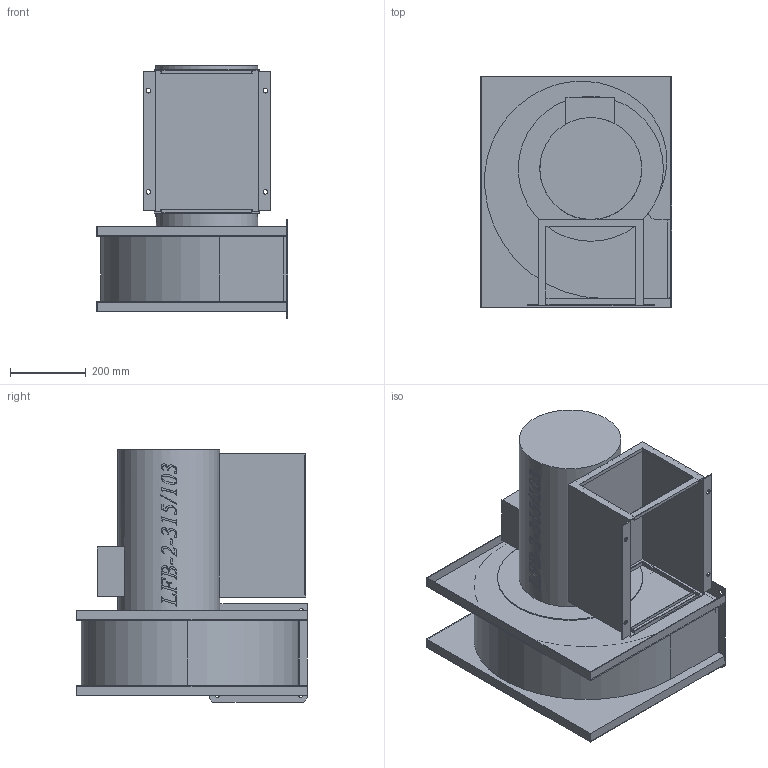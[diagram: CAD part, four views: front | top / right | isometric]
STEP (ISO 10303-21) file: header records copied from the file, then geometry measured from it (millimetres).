
FILE_DESCRIPTION(/* description */ (''),/* implementation_level */ '2;1');
FILE_NAME(/* name */ 'E:\Mariusz\Modele uproszczone\LFB\LFB_2_315_103 435011067\LFB_2_315_103 435011067\LFB_2_315_103 435011067.stp',/* time_stamp */ '2018-07-06T16:19:42+02:00',/* author */ ('M.Janczarek'),/* organization */ (''),/* preprocessor_version */ 'ST-DEVELOPER v16.5',/* originating_system */ 'Autodesk Inventor 2017',/* authorisation */ '');
FILE_SCHEMA (('AUTOMOTIVE_DESIGN { 1 0 10303 214 3 1 1 }'));
Products named in the file (1): LFB_2_315_103 435011067
Bounding box: 504 x 610 x 665 mm (x, y, z)
Volume: 64794016.2 mm3; surface area: 2538814.7 mm2
Topology: 1 solids, 1 shells, 3758 faces, 11126 edges, 7348 vertices
Faces by surface type: plane 3287, bspline 403, cylinder 66, torus 2
Full cylindrical faces by diameter (mm): 7.1 x8, 8 x8, 12 x4, 13 x4, 268 x1, 374 x1, 381.891 x1, 382 x1
Entity records: 136491 total; most frequent: CARTESIAN_POINT 32181, ORIENTED_EDGE 22188, DIRECTION 17502, EDGE_CURVE 11094, LINE 9994, VECTOR 9994, VERTEX_POINT 7346, EDGE_LOOP 5234
